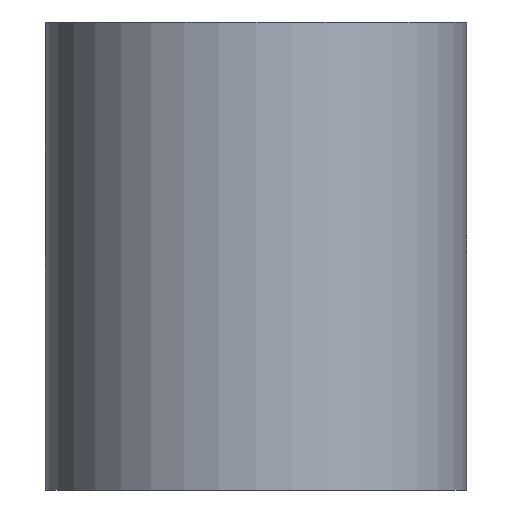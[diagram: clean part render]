
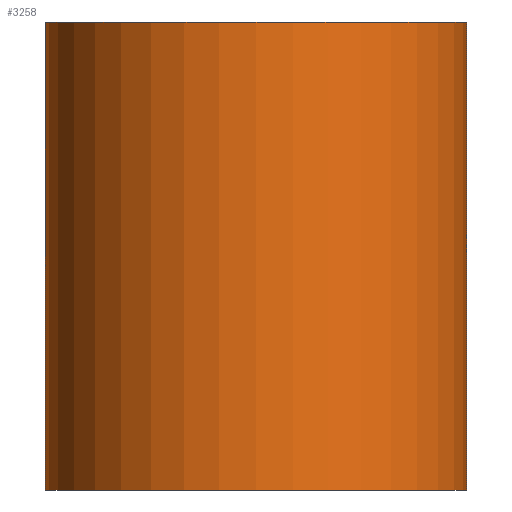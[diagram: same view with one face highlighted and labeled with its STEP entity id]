
A CAD part, left-side view. The second image highlights one B-rep face of the part: STEP entity #3258.
In plain terms, the highlighted cylindrical face has radius 3.6 mm (diameter 7.2 mm), a partial arc.
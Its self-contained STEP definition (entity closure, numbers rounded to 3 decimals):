
#275=LINE('',#5729,#475);
#277=LINE('',#5734,#477);
#475=VECTOR('',#4749,1000.);
#477=VECTOR('',#4755,1000.);
#1251=ORIENTED_EDGE('',*,*,#1814,.T.);
#1252=ORIENTED_EDGE('',*,*,#1815,.F.);
#1253=ORIENTED_EDGE('',*,*,#1762,.F.);
#1254=ORIENTED_EDGE('',*,*,#1812,.T.);
#1762=EDGE_CURVE('',#2092,#2089,#2348,.T.);
#1812=EDGE_CURVE('',#2092,#2142,#275,.T.);
#1814=EDGE_CURVE('',#2142,#2143,#2395,.T.);
#1815=EDGE_CURVE('',#2089,#2143,#277,.T.);
#2089=VERTEX_POINT('',#5582);
#2092=VERTEX_POINT('',#5587);
#2142=VERTEX_POINT('',#5728);
#2143=VERTEX_POINT('',#5733);
#2348=CIRCLE('',#3615,3.6);
#2395=CIRCLE('',#3704,3.6);
#2642=EDGE_LOOP('',(#1251,#1252,#1253,#1254));
#2916=FACE_BOUND('',#2642,.T.);
#3070=CYLINDRICAL_SURFACE('',#3703,3.6);
#3258=ADVANCED_FACE('',(#2916),#3070,.T.);
#3615=AXIS2_PLACEMENT_3D('',#5588,#4570,#4571);
#3703=AXIS2_PLACEMENT_3D('',#5731,#4751,#4752);
#3704=AXIS2_PLACEMENT_3D('',#5732,#4753,#4754);
#4570=DIRECTION('',(0.,0.,1.));
#4571=DIRECTION('',(1.,0.,0.));
#4749=DIRECTION('',(0.,0.,-1.));
#4751=DIRECTION('',(0.,0.,-1.));
#4752=DIRECTION('',(-1.,0.,0.));
#4753=DIRECTION('',(0.,0.,1.));
#4754=DIRECTION('',(1.,0.,0.));
#4755=DIRECTION('',(0.,0.,-1.));
#5582=CARTESIAN_POINT('',(-32.,-3.6,8.));
#5587=CARTESIAN_POINT('',(-32.,3.6,8.));
#5588=CARTESIAN_POINT('',(-32.,0.,8.));
#5728=CARTESIAN_POINT('',(-32.,3.6,0.));
#5729=CARTESIAN_POINT('',(-32.,3.6,8.));
#5731=CARTESIAN_POINT('',(-32.,0.,8.));
#5732=CARTESIAN_POINT('',(-32.,0.,0.));
#5733=CARTESIAN_POINT('',(-32.,-3.6,0.));
#5734=CARTESIAN_POINT('',(-32.,-3.6,8.));
